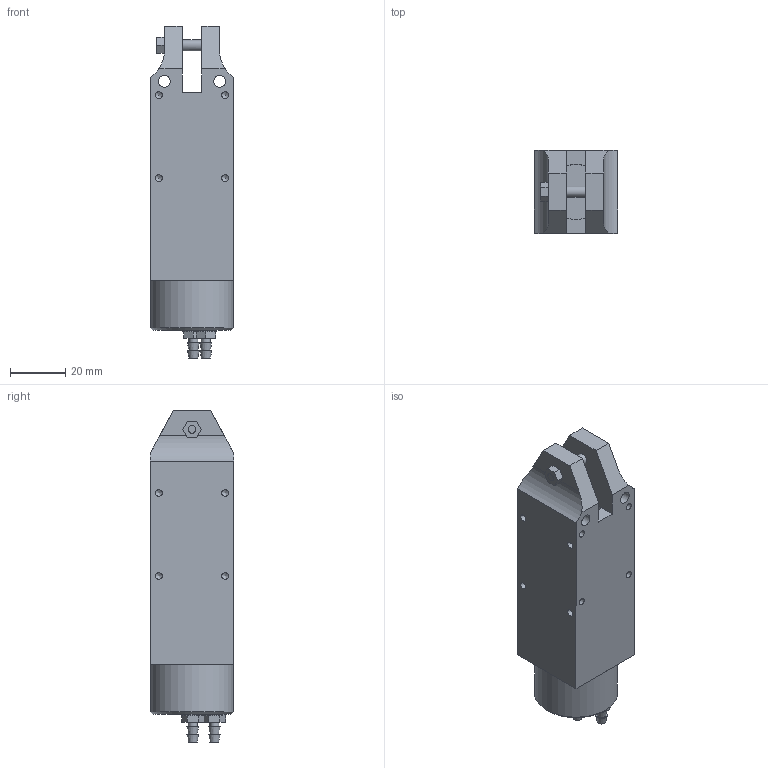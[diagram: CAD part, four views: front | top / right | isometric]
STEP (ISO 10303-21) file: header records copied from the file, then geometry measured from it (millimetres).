
FILE_DESCRIPTION (( 'STEP AP214' ), '1' );
FILE_NAME ('1818.STEP', '2022-09-08T19:56:41', ( '' ), ( '' ), 'SwSTEP 2.0', 'SolidWorks 2022', '' );
FILE_SCHEMA (( 'AUTOMOTIVE_DESIGN' ));
Length unit declared in the file: millimetre
Products named in the file (1): 1818
Bounding box: 30 x 30 x 120 mm (x, y, z)
Volume: 72888.6 mm3; surface area: 21833.6 mm2
Topology: 9 solids, 9 shells, 137 faces, 310 edges, 200 vertices
Faces by surface type: plane 75, cylinder 38, cone 24
Full cylindrical faces by diameter (mm): 2.3 x4, 2.35 x1, 2.5 x16, 2.83 x2, 3.2 x2, 4 x3, 4.3 x2, 6 x1, 6.4 x1, 8 x2, 20 x1, 30 x1
Entity records: 3738 total; most frequent: DIRECTION 586, CARTESIAN_POINT 578, ORIENTED_EDGE 456, AXIS2_PLACEMENT_3D 230, EDGE_CURVE 228, EDGE_LOOP 226, VERTEX_POINT 178, FACE_OUTER_BOUND 173
